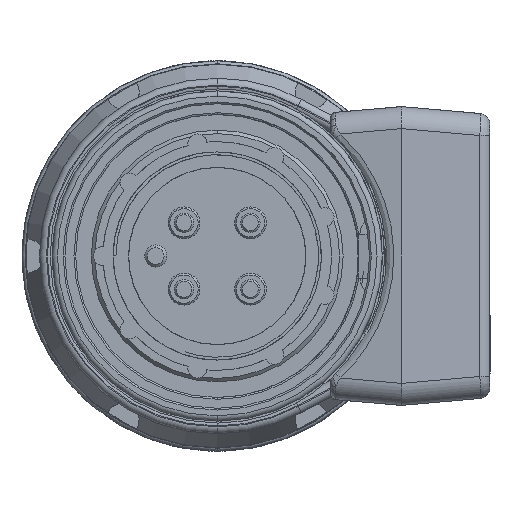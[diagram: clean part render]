
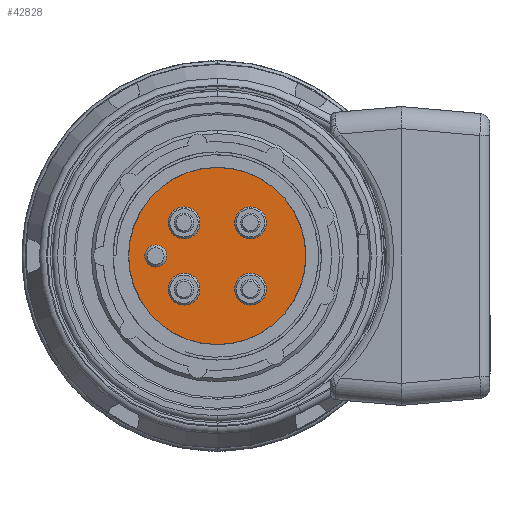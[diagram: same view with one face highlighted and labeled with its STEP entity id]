
A CAD part, left-side view. The second image highlights one B-rep face of the part: STEP entity #42828.
In plain terms, the highlighted planar face has unit normal (-1, 0, 0).
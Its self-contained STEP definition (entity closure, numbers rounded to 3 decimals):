
#144 = AXIS2_PLACEMENT_3D ( 'NONE', #16596, #36281, #48973 ) ;
#255 = EDGE_CURVE ( 'NONE', #26867, #15657, #45566, .T. ) ;
#1002 = ORIENTED_EDGE ( 'NONE', *, *, #18206, .F. ) ;
#1414 = AXIS2_PLACEMENT_3D ( 'NONE', #23068, #27118, #10144 ) ;
#1695 = DIRECTION ( 'NONE',  ( 0., 0., 1. ) ) ;
#2655 = CIRCLE ( 'NONE', #51797, 1.588 ) ;
#2787 = CARTESIAN_POINT ( 'NONE',  ( -57.175, 4.76, -4.76 ) ) ;
#3647 = VERTEX_POINT ( 'NONE', #19903 ) ;
#4783 = DIRECTION ( 'NONE',  ( -1., 0., 0. ) ) ;
#5817 = FACE_BOUND ( 'NONE', #6973, .T. ) ;
#6108 = DIRECTION ( 'NONE',  ( 0., 0., 1. ) ) ;
#6112 = CARTESIAN_POINT ( 'NONE',  ( -57.175, 8.826, 0. ) ) ;
#6377 = CARTESIAN_POINT ( 'NONE',  ( -57.175, -4.76, 7.046 ) ) ;
#6755 = EDGE_CURVE ( 'NONE', #48019, #48811, #38456, .T. ) ;
#6973 = EDGE_LOOP ( 'NONE', ( #52189, #26834 ) ) ;
#7760 = VERTEX_POINT ( 'NONE', #20076 ) ;
#7773 = CARTESIAN_POINT ( 'NONE',  ( -57.175, 4.76, 7.046 ) ) ;
#9289 = VERTEX_POINT ( 'NONE', #16240 ) ;
#9623 = CARTESIAN_POINT ( 'NONE',  ( -57.175, 8.826, 0. ) ) ;
#10144 = DIRECTION ( 'NONE',  ( 0., 1., 0. ) ) ;
#10671 = DIRECTION ( 'NONE',  ( 0., 0., 1. ) ) ;
#10888 = VERTEX_POINT ( 'NONE', #7773 ) ;
#11960 = DIRECTION ( 'NONE',  ( 0., -1., 0. ) ) ;
#12333 = CARTESIAN_POINT ( 'NONE',  ( -57.175, 4.76, 4.76 ) ) ;
#12453 = EDGE_CURVE ( 'NONE', #10888, #41850, #14394, .T. ) ;
#13477 = EDGE_CURVE ( 'NONE', #9289, #46103, #35109, .T. ) ;
#13540 = ORIENTED_EDGE ( 'NONE', *, *, #49768, .F. ) ;
#14394 = CIRCLE ( 'NONE', #19541, 2.286 ) ;
#15080 = DIRECTION ( 'NONE',  ( 0., 0., 1. ) ) ;
#15481 = ORIENTED_EDGE ( 'NONE', *, *, #32500, .F. ) ;
#15657 = VERTEX_POINT ( 'NONE', #6377 ) ;
#16111 = CARTESIAN_POINT ( 'NONE',  ( -57.175, -4.76, -4.76 ) ) ;
#16240 = CARTESIAN_POINT ( 'NONE',  ( -57.175, -4.76, -2.474 ) ) ;
#16414 = VERTEX_POINT ( 'NONE', #23211 ) ;
#16596 = CARTESIAN_POINT ( 'NONE',  ( -57.175, 0., 0. ) ) ;
#16624 = CIRCLE ( 'NONE', #46795, 2.286 ) ;
#17029 = ORIENTED_EDGE ( 'NONE', *, *, #32369, .F. ) ;
#17504 = ORIENTED_EDGE ( 'NONE', *, *, #12453, .F. ) ;
#17961 = ORIENTED_EDGE ( 'NONE', *, *, #255, .F. ) ;
#18206 = EDGE_CURVE ( 'NONE', #48811, #48019, #31989, .T. ) ;
#19138 = ORIENTED_EDGE ( 'NONE', *, *, #6755, .F. ) ;
#19232 = CIRCLE ( 'NONE', #39100, 2.286 ) ;
#19413 = AXIS2_PLACEMENT_3D ( 'NONE', #48927, #32185, #11960 ) ;
#19541 = AXIS2_PLACEMENT_3D ( 'NONE', #41652, #21120, #15080 ) ;
#19902 = DIRECTION ( 'NONE',  ( 0., 0., 1. ) ) ;
#19903 = CARTESIAN_POINT ( 'NONE',  ( -57.175, 4.76, -7.046 ) ) ;
#19956 = AXIS2_PLACEMENT_3D ( 'NONE', #16111, #37432, #19902 ) ;
#20033 = CARTESIAN_POINT ( 'NONE',  ( -57.175, 4.76, -4.76 ) ) ;
#20055 = PLANE ( 'NONE',  #19413 ) ;
#20076 = CARTESIAN_POINT ( 'NONE',  ( -57.175, 8.826, -1.587 ) ) ;
#20318 = FACE_BOUND ( 'NONE', #36921, .T. ) ;
#21120 = DIRECTION ( 'NONE',  ( -1., 0., 0. ) ) ;
#22154 = DIRECTION ( 'NONE',  ( 0., 0., 1. ) ) ;
#22176 = CARTESIAN_POINT ( 'NONE',  ( -57.175, -4.76, 4.76 ) ) ;
#22236 = EDGE_CURVE ( 'NONE', #44545, #3647, #31867, .T. ) ;
#22794 = EDGE_LOOP ( 'NONE', ( #17961, #15481 ) ) ;
#23068 = CARTESIAN_POINT ( 'NONE',  ( -57.175, 0., 0. ) ) ;
#23211 = CARTESIAN_POINT ( 'NONE',  ( -57.175, 8.826, 1.588 ) ) ;
#23577 = FACE_BOUND ( 'NONE', #28406, .T. ) ;
#25186 = DIRECTION ( 'NONE',  ( -1., 0., 0. ) ) ;
#25455 = CARTESIAN_POINT ( 'NONE',  ( -57.175, -4.76, -4.76 ) ) ;
#26316 = FACE_BOUND ( 'NONE', #22794, .T. ) ;
#26587 = DIRECTION ( 'NONE',  ( -1., 0., 0. ) ) ;
#26630 = AXIS2_PLACEMENT_3D ( 'NONE', #22176, #39175, #1695 ) ;
#26834 = ORIENTED_EDGE ( 'NONE', *, *, #22236, .F. ) ;
#26867 = VERTEX_POINT ( 'NONE', #27923 ) ;
#27063 = DIRECTION ( 'NONE',  ( -1., 0., 0. ) ) ;
#27118 = DIRECTION ( 'NONE',  ( 1., 0., 0. ) ) ;
#27699 = CIRCLE ( 'NONE', #19956, 2.286 ) ;
#27765 = ORIENTED_EDGE ( 'NONE', *, *, #47934, .F. ) ;
#27923 = CARTESIAN_POINT ( 'NONE',  ( -57.175, -4.76, 2.474 ) ) ;
#28406 = EDGE_LOOP ( 'NONE', ( #13540, #17504 ) ) ;
#28565 = ORIENTED_EDGE ( 'NONE', *, *, #13477, .F. ) ;
#29057 = AXIS2_PLACEMENT_3D ( 'NONE', #25455, #25186, #41933 ) ;
#29415 = CARTESIAN_POINT ( 'NONE',  ( -57.175, 4.76, -2.474 ) ) ;
#31867 = CIRCLE ( 'NONE', #36139, 2.286 ) ;
#31887 = DIRECTION ( 'NONE',  ( 0., 0., 1. ) ) ;
#31905 = EDGE_CURVE ( 'NONE', #3647, #44545, #16624, .T. ) ;
#31989 = CIRCLE ( 'NONE', #144, 12.7 ) ;
#32185 = DIRECTION ( 'NONE',  ( -1., 0., 0. ) ) ;
#32369 = EDGE_CURVE ( 'NONE', #7760, #16414, #33884, .T. ) ;
#32460 = FACE_BOUND ( 'NONE', #35977, .T. ) ;
#32500 = EDGE_CURVE ( 'NONE', #15657, #26867, #19232, .T. ) ;
#32831 = AXIS2_PLACEMENT_3D ( 'NONE', #12333, #4783, #37151 ) ;
#33754 = CARTESIAN_POINT ( 'NONE',  ( -57.175, -4.76, 4.76 ) ) ;
#33884 = CIRCLE ( 'NONE', #49405, 1.588 ) ;
#34665 = CARTESIAN_POINT ( 'NONE',  ( -57.175, -4.76, -7.046 ) ) ;
#35109 = CIRCLE ( 'NONE', #29057, 2.286 ) ;
#35209 = DIRECTION ( 'NONE',  ( -1., 0., 0. ) ) ;
#35967 = FACE_OUTER_BOUND ( 'NONE', #41535, .T. ) ;
#35977 = EDGE_LOOP ( 'NONE', ( #27765, #17029 ) ) ;
#36139 = AXIS2_PLACEMENT_3D ( 'NONE', #2787, #27063, #31887 ) ;
#36281 = DIRECTION ( 'NONE',  ( 1., 0., 0. ) ) ;
#36921 = EDGE_LOOP ( 'NONE', ( #50709, #28565 ) ) ;
#37148 = CIRCLE ( 'NONE', #32831, 2.286 ) ;
#37151 = DIRECTION ( 'NONE',  ( 0., 0., 1. ) ) ;
#37432 = DIRECTION ( 'NONE',  ( -1., 0., 0. ) ) ;
#38456 = CIRCLE ( 'NONE', #1414, 12.7 ) ;
#39100 = AXIS2_PLACEMENT_3D ( 'NONE', #33754, #50230, #22154 ) ;
#39175 = DIRECTION ( 'NONE',  ( -1., 0., 0. ) ) ;
#40053 = CARTESIAN_POINT ( 'NONE',  ( -57.175, 12.7, 0. ) ) ;
#40832 = DIRECTION ( 'NONE',  ( -1., 0., 0. ) ) ;
#41535 = EDGE_LOOP ( 'NONE', ( #19138, #1002 ) ) ;
#41652 = CARTESIAN_POINT ( 'NONE',  ( -57.175, 4.76, 4.76 ) ) ;
#41850 = VERTEX_POINT ( 'NONE', #49620 ) ;
#41933 = DIRECTION ( 'NONE',  ( 0., 0., 1. ) ) ;
#42337 = CARTESIAN_POINT ( 'NONE',  ( -57.175, -12.7, 0. ) ) ;
#42828 = ADVANCED_FACE ( 'NONE', ( #26316, #5817, #20318, #23577, #32460, #35967 ), #20055, .T. ) ;
#44545 = VERTEX_POINT ( 'NONE', #29415 ) ;
#45566 = CIRCLE ( 'NONE', #26630, 2.286 ) ;
#46103 = VERTEX_POINT ( 'NONE', #34665 ) ;
#46795 = AXIS2_PLACEMENT_3D ( 'NONE', #20033, #40832, #52679 ) ;
#47934 = EDGE_CURVE ( 'NONE', #16414, #7760, #2655, .T. ) ;
#48019 = VERTEX_POINT ( 'NONE', #40053 ) ;
#48811 = VERTEX_POINT ( 'NONE', #42337 ) ;
#48927 = CARTESIAN_POINT ( 'NONE',  ( -57.175, 0., 0. ) ) ;
#48973 = DIRECTION ( 'NONE',  ( 0., 1., 0. ) ) ;
#49405 = AXIS2_PLACEMENT_3D ( 'NONE', #6112, #35209, #10671 ) ;
#49620 = CARTESIAN_POINT ( 'NONE',  ( -57.175, 4.76, 2.474 ) ) ;
#49768 = EDGE_CURVE ( 'NONE', #41850, #10888, #37148, .T. ) ;
#50230 = DIRECTION ( 'NONE',  ( -1., 0., 0. ) ) ;
#50551 = EDGE_CURVE ( 'NONE', #46103, #9289, #27699, .T. ) ;
#50709 = ORIENTED_EDGE ( 'NONE', *, *, #50551, .F. ) ;
#51797 = AXIS2_PLACEMENT_3D ( 'NONE', #9623, #26587, #6108 ) ;
#52189 = ORIENTED_EDGE ( 'NONE', *, *, #31905, .F. ) ;
#52679 = DIRECTION ( 'NONE',  ( 0., 0., 1. ) ) ;
